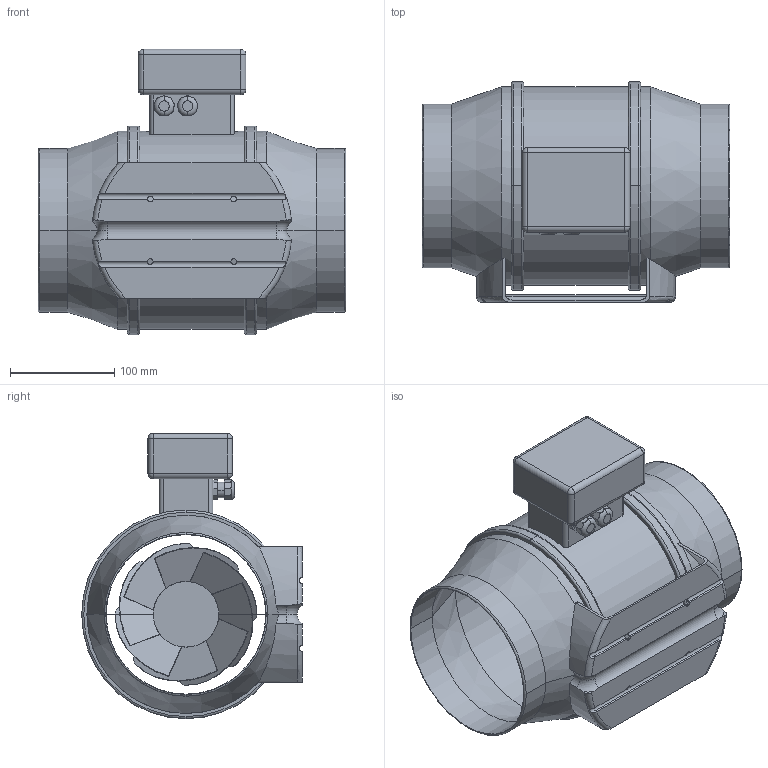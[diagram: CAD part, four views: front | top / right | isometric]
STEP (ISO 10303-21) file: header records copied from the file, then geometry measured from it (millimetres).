
FILE_DESCRIPTION(('STEP AP214'),'1');
FILE_NAME('fan_5211023700.stp','2017-03-31T12:38:48',('TraceParts'),('TraceParts S.A.'),'Spatial InterOp 3D',' ',' ');
FILE_SCHEMA(('automotive_design'));
Length unit declared in the file: millimetre
Products named in the file (1): fan_5211023700
Bounding box: 295 x 211.5 x 273.5 mm (x, y, z)
Volume: 1165856.1 mm3; surface area: 506116.9 mm2
Topology: 1 solids, 1 shells, 252 faces, 708 edges, 451 vertices
Faces by surface type: plane 102, cylinder 94, torus 36, cone 12, sphere 8
Entity records: 14351 total; most frequent: CARTESIAN_POINT 5908, ORIENTED_EDGE 1400, DIRECTION 1317, EDGE_CURVE 700, AXIS2_PLACEMENT_3D 516, VERTEX_POINT 451, LINE 285, VECTOR 285
